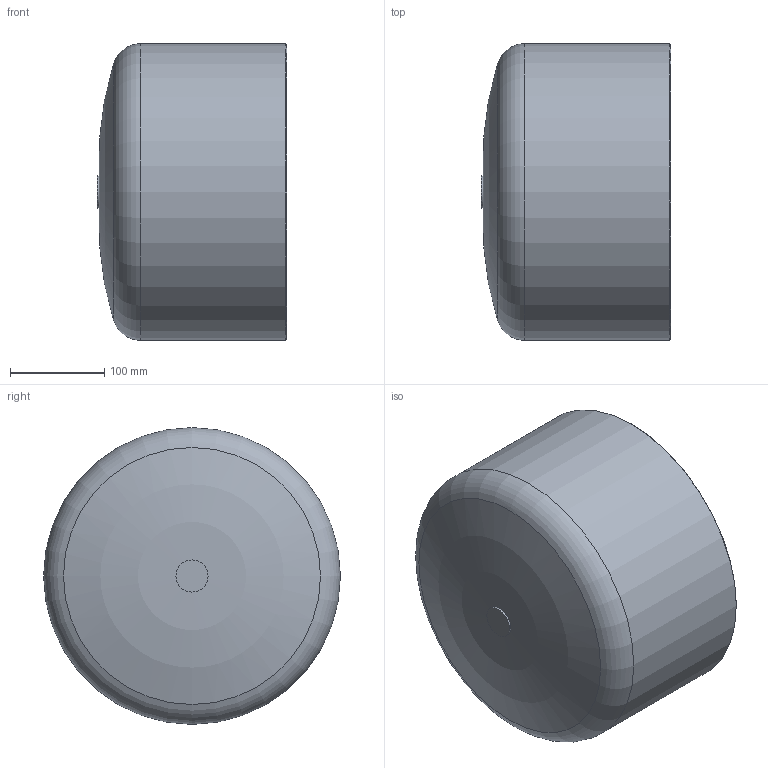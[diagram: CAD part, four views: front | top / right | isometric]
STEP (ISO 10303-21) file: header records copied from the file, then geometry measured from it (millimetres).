
FILE_DESCRIPTION(/* description */ ('Unknown'),/* implementation_level */ '2;1');
FILE_NAME(/* name */ 'CAP315C',/* time_stamp */ '2021-02-04T10:13:48+01:00',/* author */ ('Unknown'),/* organization */ ('Unknown'),/* preprocessor_version */ 'ST-DEVELOPER v16.7',/* originating_system */ 'Solid Edge',/* authorisation */ 'Unknown');
FILE_SCHEMA (('AUTOMOTIVE_DESIGN {1 0 10303 214 3 1 1}'));
Length unit declared in the file: millimetre
Products named in the file (1): CAP315C
Bounding box: 201 x 315 x 315 mm (x, y, z)
Volume: 6335397.3 mm3; surface area: 449080.1 mm2
Topology: 1 solids, 1 shells, 11 faces, 22 edges, 13 vertices
Faces by surface type: torus 4, cylinder 3, cone 2, plane 2
Full cylindrical faces by diameter (mm): 34 x1, 257.8 x1, 315 x1
Entity records: 248 total; most frequent: DIRECTION 44, CARTESIAN_POINT 33, AXIS2_PLACEMENT_3D 22, FACE_BOUND 21, ORIENTED_EDGE 20, EDGE_LOOP 20, VERTEX_POINT 11, ADVANCED_FACE 11
